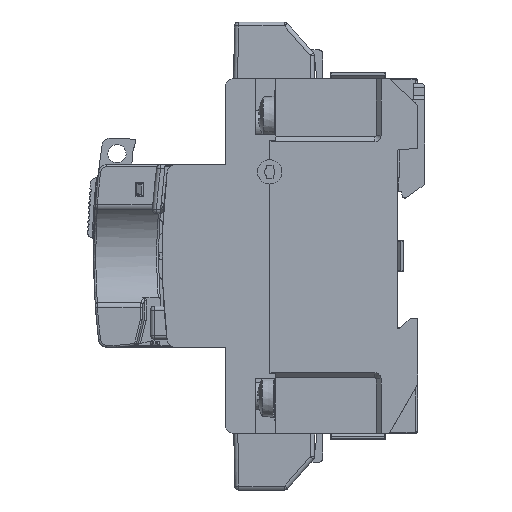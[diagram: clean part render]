
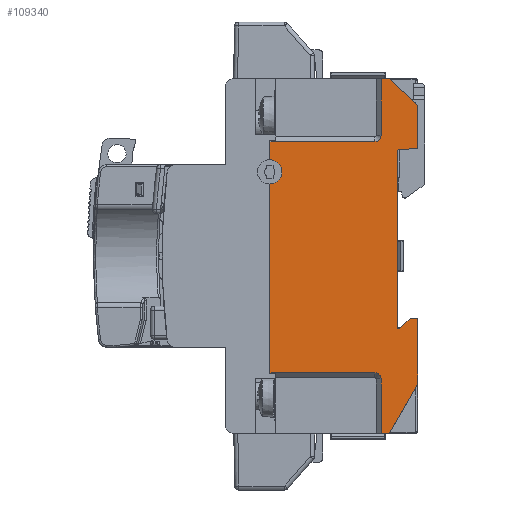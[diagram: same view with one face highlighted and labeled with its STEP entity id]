
A CAD part, front view. The second image highlights one B-rep face of the part: STEP entity #109340.
In plain terms, the highlighted planar face has unit normal (0, -1, 0).
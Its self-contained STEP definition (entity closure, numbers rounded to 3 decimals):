
#1784=DIRECTION('',(0.,0.,-1.));
#1785=VECTOR('',#1784,4.5);
#1786=CARTESIAN_POINT('',(1.9,-71.8,28.25));
#1787=LINE('',#1786,#1785);
#8160=DIRECTION('',(1.,0.,0.));
#8161=VECTOR('',#8160,2.);
#8162=CARTESIAN_POINT('',(29.35,-71.8,-43.75));
#8163=LINE('',#8162,#8161);
#8460=CARTESIAN_POINT('',(1.85,-71.8,20.75));
#8461=DIRECTION('',(0.,-1.,0.));
#8462=DIRECTION('',(0.017,0.,-1.));
#8463=AXIS2_PLACEMENT_3D('',#8460,#8461,#8462);
#8465=CARTESIAN_POINT('',(1.85,-71.8,20.75));
#8466=DIRECTION('',(0.,-1.,0.));
#8467=DIRECTION('',(1.,0.,0.));
#8468=AXIS2_PLACEMENT_3D('',#8465,#8466,#8467);
#8470=DIRECTION('',(1.,0.,0.));
#8471=VECTOR('',#8470,1.45);
#8472=CARTESIAN_POINT('',(1.9,-71.8,28.25));
#8473=LINE('',#8472,#8471);
#8474=DIRECTION('',(1.,0.,0.));
#8475=VECTOR('',#8474,24.5);
#8476=CARTESIAN_POINT('',(3.35,-71.8,28.25));
#8477=LINE('',#8476,#8475);
#8478=CARTESIAN_POINT('',(27.85,-71.8,29.75));
#8479=DIRECTION('',(0.,-1.,0.));
#8480=DIRECTION('',(0.,0.,-1.));
#8481=AXIS2_PLACEMENT_3D('',#8478,#8479,#8480);
#8483=DIRECTION('',(0.,0.,1.));
#8484=VECTOR('',#8483,14.);
#8485=CARTESIAN_POINT('',(29.35,-71.8,29.75));
#8486=LINE('',#8485,#8484);
#8487=DIRECTION('',(0.731,0.,-0.682));
#8488=VECTOR('',#8487,9.571);
#8489=CARTESIAN_POINT('',(31.35,-71.8,43.75));
#8490=LINE('',#8489,#8488);
#8491=DIRECTION('',(-0.996,0.,-0.087));
#8492=VECTOR('',#8491,5.019);
#8493=CARTESIAN_POINT('',(38.35,-71.8,26.587));
#8494=LINE('',#8493,#8492);
#8495=DIRECTION('',(0.707,0.,0.707));
#8496=VECTOR('',#8495,3.536);
#8497=CARTESIAN_POINT('',(34.,-71.8,-17.85));
#8498=LINE('',#8497,#8496);
#8499=DIRECTION('',(-0.5,0.,-0.866));
#8500=VECTOR('',#8499,14.);
#8501=CARTESIAN_POINT('',(38.35,-71.8,-31.626));
#8502=LINE('',#8501,#8500);
#8503=DIRECTION('',(0.,0.,1.));
#8504=VECTOR('',#8503,13.4);
#8505=CARTESIAN_POINT('',(29.35,-71.8,-43.75));
#8506=LINE('',#8505,#8504);
#8507=CARTESIAN_POINT('',(27.85,-71.8,-30.35));
#8508=DIRECTION('',(0.,-1.,0.));
#8509=DIRECTION('',(1.,0.,0.));
#8510=AXIS2_PLACEMENT_3D('',#8507,#8508,#8509);
#8512=DIRECTION('',(-1.,0.,0.));
#8513=VECTOR('',#8512,24.5);
#8514=CARTESIAN_POINT('',(27.85,-71.8,
-28.85));
#8515=LINE('',#8514,#8513);
#8516=DIRECTION('',(-1.,0.,0.));
#8517=VECTOR('',#8516,1.45);
#8518=CARTESIAN_POINT('',(3.35,-71.8,-28.85));
#8519=LINE('',#8518,#8517);
#8989=DIRECTION('',(0.,0.,-1.));
#8990=VECTOR('',#8989,46.6);
#8991=CARTESIAN_POINT('',(1.9,-71.8,17.75));
#8992=LINE('',#8991,#8990);
#10002=DIRECTION('',(-1.,0.,0.));
#10003=VECTOR('',#10002,2.);
#10004=CARTESIAN_POINT('',(31.35,-71.8,43.75));
#10005=LINE('',#10004,#10003);
#40073=DIRECTION('',(0.,0.,1.));
#40074=VECTOR('',#40073,44.);
#40075=CARTESIAN_POINT('',(33.35,-71.8,-17.85));
#40076=LINE('',#40075,#40074);
#41536=DIRECTION('',(0.,0.,1.));
#41537=VECTOR('',#41536,10.635);
#41538=CARTESIAN_POINT('',(38.35,-71.8,26.587));
#41539=LINE('',#41538,#41537);
#41560=DIRECTION('',(-1.,0.,0.));
#41561=VECTOR('',#41560,0.65);
#41562=CARTESIAN_POINT('',(34.,-71.8,-17.85));
#41563=LINE('',#41562,#41561);
#41588=DIRECTION('',(0.,0.,1.));
#41589=VECTOR('',#41588,16.276);
#41590=CARTESIAN_POINT('',(38.35,-71.8,-31.626));
#41591=LINE('',#41590,#41589);
#41596=DIRECTION('',(-1.,0.,0.));
#41597=VECTOR('',#41596,1.85);
#41598=CARTESIAN_POINT('',(38.35,-71.8,-15.35));
#41599=LINE('',#41598,#41597);
#90787=CARTESIAN_POINT('',(1.9,-71.8,17.75));
#90788=CARTESIAN_POINT('',(4.85,-71.8,20.75));
#90789=VERTEX_POINT('',#90787);
#90790=VERTEX_POINT('',#90788);
#90791=CARTESIAN_POINT('',(1.9,-71.8,23.75));
#90792=VERTEX_POINT('',#90791);
#90793=CARTESIAN_POINT('',(1.9,-71.8,28.25));
#90794=VERTEX_POINT('',#90793);
#90795=CARTESIAN_POINT('',(3.35,-71.8,28.25));
#90796=VERTEX_POINT('',#90795);
#90797=CARTESIAN_POINT('',(27.85,-71.8,
28.25));
#90798=VERTEX_POINT('',#90797);
#90799=CARTESIAN_POINT('',(29.35,-71.8,29.75));
#90800=VERTEX_POINT('',#90799);
#90801=CARTESIAN_POINT('',(29.35,-71.8,43.75));
#90802=VERTEX_POINT('',#90801);
#90803=CARTESIAN_POINT('',(31.35,-71.8,43.75));
#90804=VERTEX_POINT('',#90803);
#90805=CARTESIAN_POINT('',(38.35,-71.8,37.222));
#90806=VERTEX_POINT('',#90805);
#90807=CARTESIAN_POINT('',(38.35,-71.8,26.587));
#90808=VERTEX_POINT('',#90807);
#90809=CARTESIAN_POINT('',(33.35,-71.8,26.15));
#90810=VERTEX_POINT('',#90809);
#90811=CARTESIAN_POINT('',(33.35,-71.8,-17.85));
#90812=VERTEX_POINT('',#90811);
#90813=CARTESIAN_POINT('',(34.,-71.8,-17.85));
#90814=VERTEX_POINT('',#90813);
#90815=CARTESIAN_POINT('',(36.5,-71.8,-15.35));
#90816=VERTEX_POINT('',#90815);
#90817=CARTESIAN_POINT('',(38.35,-71.8,-15.35));
#90818=VERTEX_POINT('',#90817);
#90819=CARTESIAN_POINT('',(38.35,-71.8,-31.626));
#90820=VERTEX_POINT('',#90819);
#90821=CARTESIAN_POINT('',(31.35,-71.8,-43.75));
#90822=VERTEX_POINT('',#90821);
#90823=CARTESIAN_POINT('',(29.35,-71.8,-43.75));
#90824=VERTEX_POINT('',#90823);
#90825=CARTESIAN_POINT('',(29.35,-71.8,
-30.35));
#90826=VERTEX_POINT('',#90825);
#90827=CARTESIAN_POINT('',(27.85,-71.8,-28.85));
#90828=VERTEX_POINT('',#90827);
#90829=CARTESIAN_POINT('',(3.35,-71.8,-28.85));
#90830=VERTEX_POINT('',#90829);
#90831=CARTESIAN_POINT('',(1.9,-71.8,-28.85));
#90832=VERTEX_POINT('',#90831);
#109291=CARTESIAN_POINT('',(38.35,-71.8,0.));
#109292=DIRECTION('',(0.,1.,0.));
#109293=DIRECTION('',(0.,0.,-1.));
#109294=AXIS2_PLACEMENT_3D('',#109291,#109292,#109293);
#109295=PLANE('',#109294);
#109297=ORIENTED_EDGE('',*,*,#109296,.T.);
#109299=ORIENTED_EDGE('',*,*,#109298,.T.);
#109300=ORIENTED_EDGE('',*,*,#99828,.F.);
#109301=ORIENTED_EDGE('',*,*,#99887,.T.);
#109303=ORIENTED_EDGE('',*,*,#109302,.T.);
#109305=ORIENTED_EDGE('',*,*,#109304,.T.);
#109307=ORIENTED_EDGE('',*,*,#109306,.T.);
#109309=ORIENTED_EDGE('',*,*,#109308,.F.);
#109311=ORIENTED_EDGE('',*,*,#109310,.T.);
#109313=ORIENTED_EDGE('',*,*,#109312,.F.);
#109315=ORIENTED_EDGE('',*,*,#109314,.T.);
#109317=ORIENTED_EDGE('',*,*,#109316,.F.);
#109319=ORIENTED_EDGE('',*,*,#109318,.F.);
#109321=ORIENTED_EDGE('',*,*,#109320,.T.);
#109323=ORIENTED_EDGE('',*,*,#109322,.F.);
#109325=ORIENTED_EDGE('',*,*,#109324,.F.);
#109326=ORIENTED_EDGE('',*,*,#109072,.T.);
#109327=ORIENTED_EDGE('',*,*,#108876,.F.);
#109329=ORIENTED_EDGE('',*,*,#109328,.T.);
#109331=ORIENTED_EDGE('',*,*,#109330,.T.);
#109333=ORIENTED_EDGE('',*,*,#109332,.T.);
#109335=ORIENTED_EDGE('',*,*,#109334,.T.);
#109337=ORIENTED_EDGE('',*,*,#109336,.F.);
#109338=EDGE_LOOP('',(#109297,#109299,#109300,#109301,#109303,#109305,#109307,
#109309,#109311,#109313,#109315,#109317,#109319,#109321,#109323,#109325,#109326,
#109327,#109329,#109331,#109333,#109335,#109337));
#109339=FACE_OUTER_BOUND('',#109338,.F.);
#8464=CIRCLE('',#8463,3.);
#8469=CIRCLE('',#8468,3.);
#8482=CIRCLE('',#8481,1.5);
#8511=CIRCLE('',#8510,1.5);
#99828=EDGE_CURVE('',#90794,#90792,#1787,.T.);
#99887=EDGE_CURVE('',#90794,#90796,#8473,.T.);
#108876=EDGE_CURVE('',#90824,#90822,#8163,.T.);
#109072=EDGE_CURVE('',#90820,#90822,#8502,.T.);
#109296=EDGE_CURVE('',#90789,#90790,#8464,.T.);
#109298=EDGE_CURVE('',#90790,#90792,#8469,.T.);
#109302=EDGE_CURVE('',#90796,#90798,#8477,.T.);
#109304=EDGE_CURVE('',#90798,#90800,#8482,.T.);
#109306=EDGE_CURVE('',#90800,#90802,#8486,.T.);
#109308=EDGE_CURVE('',#90804,#90802,#10005,.T.);
#109310=EDGE_CURVE('',#90804,#90806,#8490,.T.);
#109312=EDGE_CURVE('',#90808,#90806,#41539,.T.);
#109314=EDGE_CURVE('',#90808,#90810,#8494,.T.);
#109316=EDGE_CURVE('',#90812,#90810,#40076,.T.);
#109318=EDGE_CURVE('',#90814,#90812,#41563,.T.);
#109320=EDGE_CURVE('',#90814,#90816,#8498,.T.);
#109322=EDGE_CURVE('',#90818,#90816,#41599,.T.);
#109324=EDGE_CURVE('',#90820,#90818,#41591,.T.);
#109328=EDGE_CURVE('',#90824,#90826,#8506,.T.);
#109330=EDGE_CURVE('',#90826,#90828,#8511,.T.);
#109332=EDGE_CURVE('',#90828,#90830,#8515,.T.);
#109334=EDGE_CURVE('',#90830,#90832,#8519,.T.);
#109336=EDGE_CURVE('',#90789,#90832,#8992,.T.);
#109340=ADVANCED_FACE('',(#109339),#109295,.F.);
